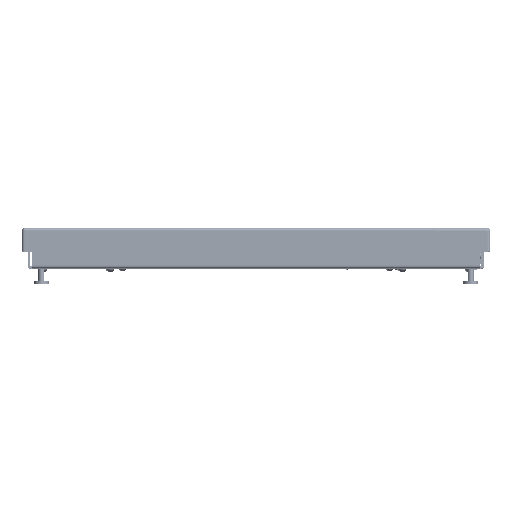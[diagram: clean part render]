
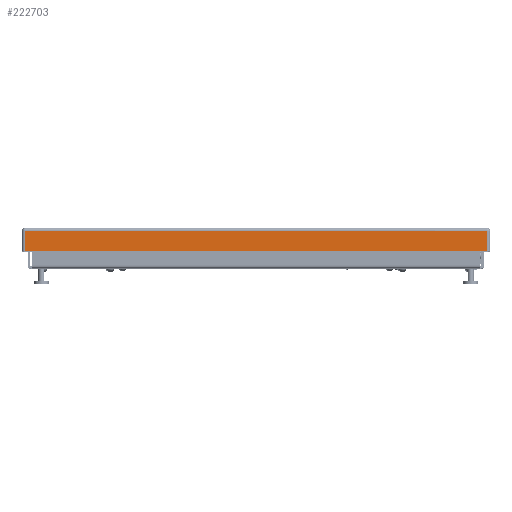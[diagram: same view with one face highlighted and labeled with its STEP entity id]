
A CAD part, top view. The second image highlights one B-rep face of the part: STEP entity #222703.
In plain terms, the highlighted planar face has unit normal (0, 0, 1) as drawn and (0, 0, -1) by its records, which use the part's own axes.
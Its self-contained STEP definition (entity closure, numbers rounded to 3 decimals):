
#39259 = EDGE_CURVE ( 'NONE', #267109, #219602, #535585, .T. ) ;
#43075 = EDGE_CURVE ( 'NONE', #219602, #202051, #486955, .T. ) ;
#57277 = PLANE ( 'NONE',  #291112 ) ;
#61063 = DIRECTION ( 'NONE',  ( 0., 1., 0. ) ) ;
#100449 = VECTOR ( 'NONE', #61063, 1000. ) ;
#111337 = ORIENTED_EDGE ( 'NONE', *, *, #146804, .T. ) ;
#123375 = EDGE_CURVE ( 'NONE', #381288, #202051, #291322, .T. ) ;
#125523 = FACE_OUTER_BOUND ( 'NONE', #345318, .T. ) ;
#130712 = VECTOR ( 'NONE', #390376, 1000. ) ;
#146804 = EDGE_CURVE ( 'NONE', #267109, #381288, #294254, .T. ) ;
#169646 = DIRECTION ( 'NONE',  ( 0., 0., 1. ) ) ;
#202051 = VERTEX_POINT ( 'NONE', #434793 ) ;
#203890 = DIRECTION ( 'NONE',  ( 1., 0., 0. ) ) ;
#219602 = VERTEX_POINT ( 'NONE', #641628 ) ;
#222703 = ADVANCED_FACE ( 'NONE', ( #125523 ), #57277, .F. ) ;
#224119 = CARTESIAN_POINT ( 'NONE',  ( 0., 26.437, -300. ) ) ;
#267109 = VERTEX_POINT ( 'NONE', #325097 ) ;
#291112 = AXIS2_PLACEMENT_3D ( 'NONE', #423627, #169646, #583413 ) ;
#291322 = LINE ( 'NONE', #224119, #130712 ) ;
#294254 = LINE ( 'NONE', #295975, #632751 ) ;
#295975 = CARTESIAN_POINT ( 'NONE',  ( -296.27, 0., -300. ) ) ;
#325097 = CARTESIAN_POINT ( 'NONE',  ( -296.27, 0.813, -300. ) ) ;
#345318 = EDGE_LOOP ( 'NONE', ( #618296, #111337, #601450, #580197 ) ) ;
#375951 = CARTESIAN_POINT ( 'NONE',  ( -296.27, 26.437, -300. ) ) ;
#381288 = VERTEX_POINT ( 'NONE', #375951 ) ;
#390376 = DIRECTION ( 'NONE',  ( 1., 0., 0. ) ) ;
#398858 = VECTOR ( 'NONE', #203890, 1000. ) ;
#414112 = CARTESIAN_POINT ( 'NONE',  ( 296.27, 0., -300. ) ) ;
#423627 = CARTESIAN_POINT ( 'NONE',  ( 0., 0., -300. ) ) ;
#434793 = CARTESIAN_POINT ( 'NONE',  ( 296.27, 26.437, -300. ) ) ;
#458023 = CARTESIAN_POINT ( 'NONE',  ( 300., 0.813, -300. ) ) ;
#486955 = LINE ( 'NONE', #414112, #100449 ) ;
#535585 = LINE ( 'NONE', #458023, #398858 ) ;
#554670 = DIRECTION ( 'NONE',  ( 0., 1., 0. ) ) ;
#580197 = ORIENTED_EDGE ( 'NONE', *, *, #43075, .F. ) ;
#583413 = DIRECTION ( 'NONE',  ( 0., -1., 0. ) ) ;
#601450 = ORIENTED_EDGE ( 'NONE', *, *, #123375, .T. ) ;
#618296 = ORIENTED_EDGE ( 'NONE', *, *, #39259, .F. ) ;
#632751 = VECTOR ( 'NONE', #554670, 1000. ) ;
#641628 = CARTESIAN_POINT ( 'NONE',  ( 296.27, 0.813, -300. ) ) ;
